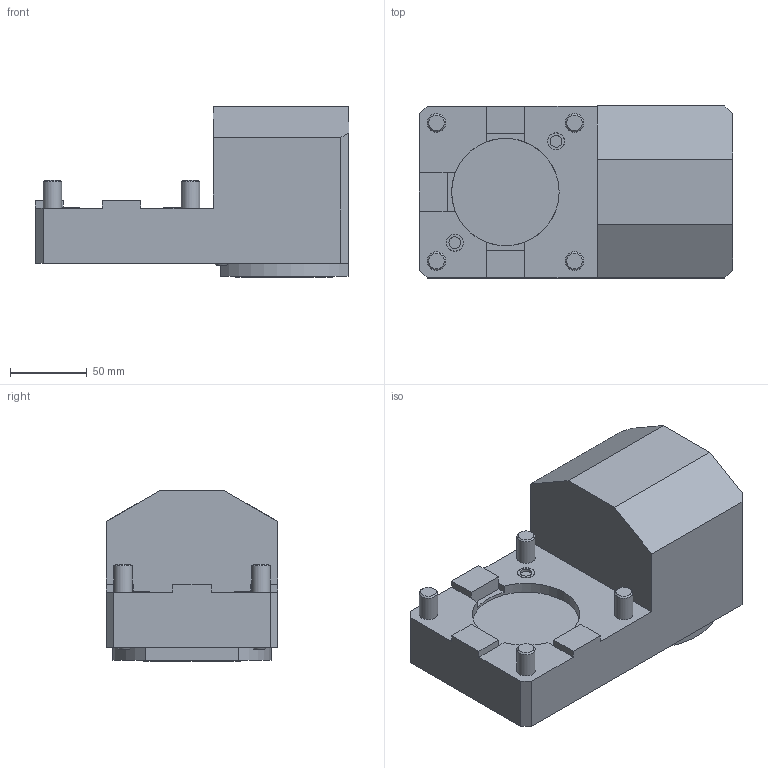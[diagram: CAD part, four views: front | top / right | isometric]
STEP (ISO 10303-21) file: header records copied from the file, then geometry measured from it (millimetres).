
FILE_DESCRIPTION(/* description */ (''),/* implementation_level */ '2;1');
FILE_NAME(/* name */ '198086-UNI',/* time_stamp */ '2022-03-07T10:06:21+01:00',/* author */ (''),/* organization */ (''),/* preprocessor_version */ 'ST-DEVELOPER v16.5',/* originating_system */ 'HiCAD 2017 2201.0 Build 268',/* authorisation */ '');
FILE_SCHEMA (('AUTOMOTIVE_DESIGN { 1 0 10303 214 1 1 1 1 }'));
Length unit declared in the file: millimetre
Products named in the file (2): Root; Teil
Assembly tree (1 placements, depth 2):
  Root
    Teil
Bounding box: 204 x 112 x 111 mm (x, y, z)
Volume: 1396202.2 mm3; surface area: 112127.3 mm2
Topology: 1 solids, 2 shells, 198 faces, 469 edges, 304 vertices
Faces by surface type: plane 133, cylinder 36, cone 14, torus 10, sphere 3, bspline 2
Full cylindrical faces by diameter (mm): 5 x3, 7.65 x2, 11.01 x2, 11.1 x2, 12 x4, 18 x4, 20 x4, 22.2 x2, 48.5 x1, 63 x1, 70 x1
Entity records: 10020 total; most frequent: CARTESIAN_POINT 1526, DIRECTION 944, PRESENTATION_STYLE_ASSIGNMENT 817, COLOUR_RGB 817, DRAUGHTING_PRE_DEFINED_CURVE_FONT 816, CURVE_STYLE 816, OVER_RIDING_STYLED_ITEM 816, ORIENTED_EDGE 816
